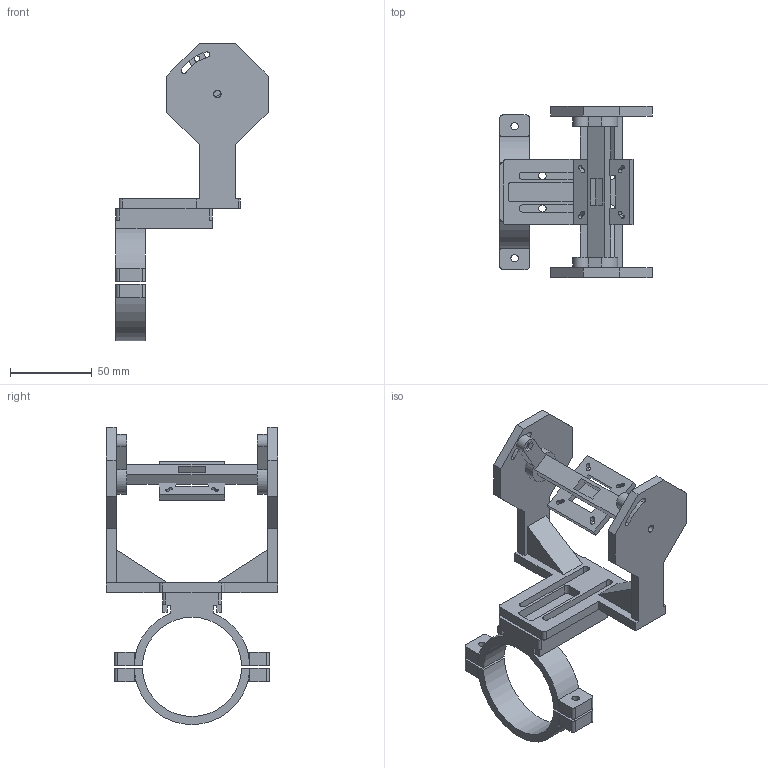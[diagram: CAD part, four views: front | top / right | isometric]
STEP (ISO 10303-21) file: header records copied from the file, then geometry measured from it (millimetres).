
FILE_DESCRIPTION(('Open CASCADE Model'),'2;1');
FILE_NAME('Open CASCADE Shape Model','2026-09-18T15:16:08',('Author'),( 'Open CASCADE'),'Open CASCADE STEP processor 7.9','Open CASCADE 7.9' ,'Unknown');
FILE_SCHEMA(('AUTOMOTIVE_DESIGN { 1 0 10303 214 1 1 1 1 }'));
Length unit declared in the file: millimetre
Products named in the file (5): g1_board_revision_2; upper; lower; fork; carrier
Assembly tree (4 placements, depth 2):
  g1_board_revision_2
    upper
    lower
    fork
    carrier
Bounding box: 93 x 104.6 x 181.6 mm (x, y, z)
Volume: 135882.8 mm3; surface area: 59244.6 mm2
Topology: 4 solids, 4 shells, 242 faces, 690 edges, 460 vertices
Faces by surface type: plane 169, cylinder 73
Full cylindrical faces by diameter (mm): 3.4 x2, 4.5 x12
Entity records: 17700 total; most frequent: CARTESIAN_POINT 3737, DIRECTION 2602, LINE 1754, VECTOR 1754, ORIENTED_EDGE 1380, PCURVE 1380, DEFINITIONAL_REPRESENTATION 1380, EDGE_CURVE 690
